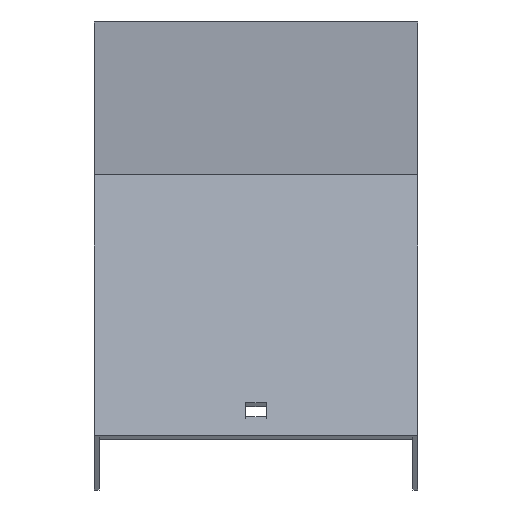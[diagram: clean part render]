
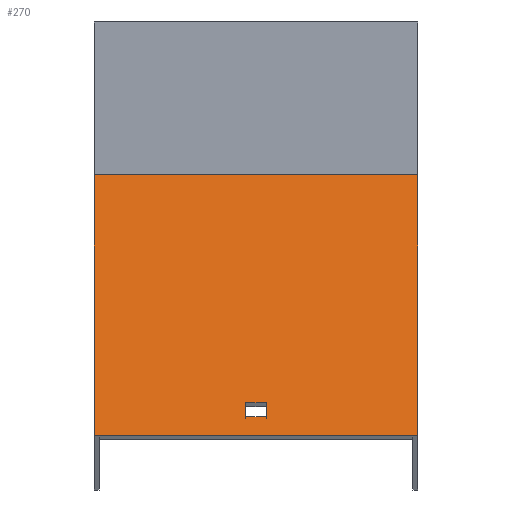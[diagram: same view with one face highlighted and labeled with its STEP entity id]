
A CAD part, top view. The second image highlights one B-rep face of the part: STEP entity #270.
In plain terms, the highlighted planar face has unit normal (0, 0.866, 0.5).
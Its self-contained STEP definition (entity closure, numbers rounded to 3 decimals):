
#4 = ORIENTED_EDGE ( 'NONE', *, *, #525, .F. ) ;
#28 = EDGE_CURVE ( 'NONE', #520, #366, #685, .T. ) ;
#33 = CARTESIAN_POINT ( 'NONE',  ( 51.5, -101.802, 475.572 ) ) ;
#40 = LINE ( 'NONE', #165, #492 ) ;
#44 = ORIENTED_EDGE ( 'NONE', *, *, #591, .T. ) ;
#46 = VERTEX_POINT ( 'NONE', #559 ) ;
#49 = ORIENTED_EDGE ( 'NONE', *, *, #562, .T. ) ;
#52 = CARTESIAN_POINT ( 'NONE',  ( 51.5, -28.986, 349.45 ) ) ;
#62 = CARTESIAN_POINT ( 'NONE',  ( 51.5, -30.302, 351.73 ) ) ;
#63 = ORIENTED_EDGE ( 'NONE', *, *, #577, .F. ) ;
#67 = CARTESIAN_POINT ( 'NONE',  ( -3.25, -101.802, 475.572 ) ) ;
#70 = DIRECTION ( 'NONE',  ( 0., -0.866, -0.5 ) ) ;
#87 = DIRECTION ( 'NONE',  ( -1., 0., 0. ) ) ;
#89 = CARTESIAN_POINT ( 'NONE',  ( 51.5, -112.302, 493.759 ) ) ;
#95 = EDGE_CURVE ( 'NONE', #366, #650, #160, .T. ) ;
#119 = PLANE ( 'NONE',  #491 ) ;
#120 = VECTOR ( 'NONE', #298, 1000. ) ;
#160 = LINE ( 'NONE', #33, #120 ) ;
#164 = LINE ( 'NONE', #675, #386 ) ;
#165 = CARTESIAN_POINT ( 'NONE',  ( 3.25, -30.302, 351.73 ) ) ;
#178 = EDGE_CURVE ( 'NONE', #186, #46, #563, .T. ) ;
#184 = ORIENTED_EDGE ( 'NONE', *, *, #28, .T. ) ;
#186 = VERTEX_POINT ( 'NONE', #754 ) ;
#188 = CARTESIAN_POINT ( 'NONE',  ( 51.5, -112.302, 493.759 ) ) ;
#206 = VERTEX_POINT ( 'NONE', #188 ) ;
#230 = DIRECTION ( 'NONE',  ( -1., 0., 0. ) ) ;
#254 = FACE_OUTER_BOUND ( 'NONE', #787, .T. ) ;
#270 = ADVANCED_FACE ( 'NONE', ( #401, #254 ), #119, .F. ) ;
#284 = CARTESIAN_POINT ( 'NONE',  ( -51.5, -112.302, 493.759 ) ) ;
#288 = LINE ( 'NONE', #362, #612 ) ;
#294 = DIRECTION ( 'NONE',  ( -1., 0., 0. ) ) ;
#298 = DIRECTION ( 'NONE',  ( 1., 0., 0. ) ) ;
#303 = VECTOR ( 'NONE', #361, 1000. ) ;
#341 = CARTESIAN_POINT ( 'NONE',  ( 3.25, -106.302, 483.366 ) ) ;
#354 = VECTOR ( 'NONE', #478, 1000. ) ;
#361 = DIRECTION ( 'NONE',  ( 0., 0.5, -0.866 ) ) ;
#362 = CARTESIAN_POINT ( 'NONE',  ( -51.5, -30.302, 351.73 ) ) ;
#366 = VERTEX_POINT ( 'NONE', #67 ) ;
#368 = ORIENTED_EDGE ( 'NONE', *, *, #178, .T. ) ;
#386 = VECTOR ( 'NONE', #87, 1000. ) ;
#401 = FACE_BOUND ( 'NONE', #497, .T. ) ;
#418 = CARTESIAN_POINT ( 'NONE',  ( -3.25, -106.302, 483.366 ) ) ;
#429 = DIRECTION ( 'NONE',  ( 0., -0.5, 0.866 ) ) ;
#442 = VERTEX_POINT ( 'NONE', #284 ) ;
#449 = VERTEX_POINT ( 'NONE', #341 ) ;
#451 = ORIENTED_EDGE ( 'NONE', *, *, #729, .T. ) ;
#478 = DIRECTION ( 'NONE',  ( 0., -0.5, 0.866 ) ) ;
#491 = AXIS2_PLACEMENT_3D ( 'NONE', #62, #70, #839 ) ;
#492 = VECTOR ( 'NONE', #760, 1000. ) ;
#497 = EDGE_LOOP ( 'NONE', ( #540, #451, #44, #184 ) ) ;
#520 = VERTEX_POINT ( 'NONE', #418 ) ;
#525 = EDGE_CURVE ( 'NONE', #206, #442, #682, .T. ) ;
#540 = ORIENTED_EDGE ( 'NONE', *, *, #95, .T. ) ;
#559 = CARTESIAN_POINT ( 'NONE',  ( -51.5, -28.986, 349.45 ) ) ;
#562 = EDGE_CURVE ( 'NONE', #46, #442, #288, .T. ) ;
#563 = LINE ( 'NONE', #52, #598 ) ;
#577 = EDGE_CURVE ( 'NONE', #186, #206, #818, .T. ) ;
#591 = EDGE_CURVE ( 'NONE', #449, #520, #164, .T. ) ;
#598 = VECTOR ( 'NONE', #230, 1000. ) ;
#612 = VECTOR ( 'NONE', #429, 1000. ) ;
#630 = CARTESIAN_POINT ( 'NONE',  ( -3.25, -30.302, 351.73 ) ) ;
#650 = VERTEX_POINT ( 'NONE', #676 ) ;
#675 = CARTESIAN_POINT ( 'NONE',  ( 51.5, -106.302, 483.366 ) ) ;
#676 = CARTESIAN_POINT ( 'NONE',  ( 3.25, -101.802, 475.572 ) ) ;
#682 = LINE ( 'NONE', #89, #803 ) ;
#685 = LINE ( 'NONE', #630, #303 ) ;
#729 = EDGE_CURVE ( 'NONE', #650, #449, #40, .T. ) ;
#754 = CARTESIAN_POINT ( 'NONE',  ( 51.5, -28.986, 349.45 ) ) ;
#760 = DIRECTION ( 'NONE',  ( 0., -0.5, 0.866 ) ) ;
#787 = EDGE_LOOP ( 'NONE', ( #49, #4, #63, #368 ) ) ;
#798 = CARTESIAN_POINT ( 'NONE',  ( 51.5, -30.302, 351.73 ) ) ;
#803 = VECTOR ( 'NONE', #294, 1000. ) ;
#818 = LINE ( 'NONE', #798, #354 ) ;
#839 = DIRECTION ( 'NONE',  ( 0., 0.5, -0.866 ) ) ;
